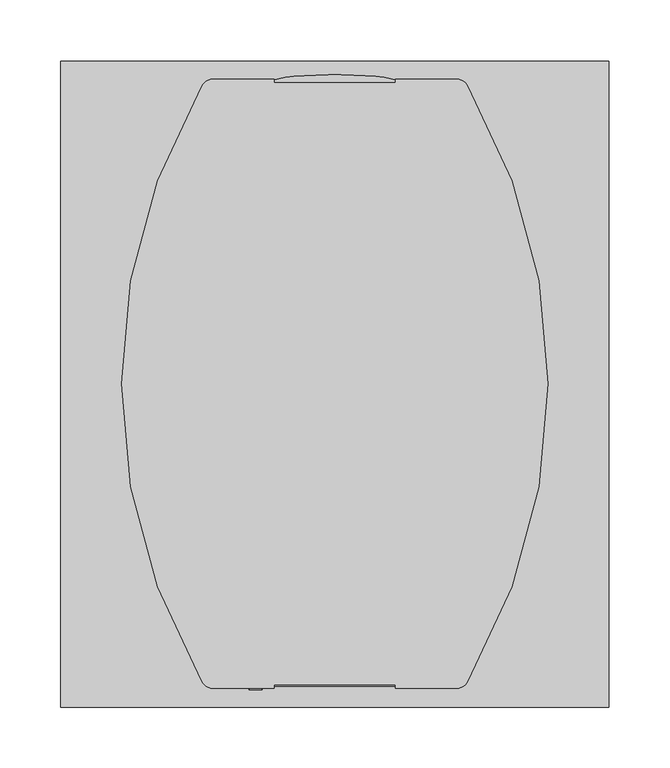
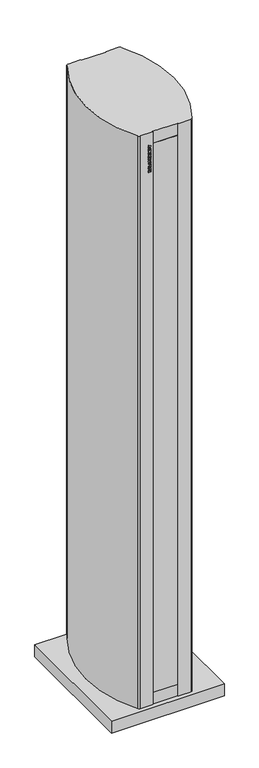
"""IFC4 building model written with IfcOpenShell, lengths in millimetres: proxy geometry, ИЗТТ_Завеса дизайнерская_Электрическая : KVC-S25E24-31."""

from ifc_helpers import new_model, si_unit, point, frame, frame_2d, origin, origin_with_axes, place, context, project, spatial, polyline, circle_curve, ellipse_curve, trimmed, segment, composite_curve, outline, extrude, faceted_brep, source, transform, mapped, element, save
from ifc_brep_helpers import plane_surface, extruded_surface, advanced_brep


def mechanical_equipment_74a944ee(model_context):
    return source(origin(), model_context, "Body", "SolidModel", [
        extrude(outline(polyline([(2300.0784314, -70.0), (2300.0784314, -60.0), (2303.2156863, -60.0), (2303.2156863, -61.7647059), (2304.9865196, -63.7745098), (2306.8186275, -60.0), (2310.6666667, -60.0), (2307.192402, -66.2775735), (2310.4705882, -70.0), (2306.1997549, -70.0), (2303.2156863, -66.2224265), (2303.2156863, -70.0), (2300.0784314, -70.0)])), frame((0.0, -251.0, 0.0), z_axis=(0.0, 1.0, 0.0), x_axis=(0.0, 0.0, 1.0)), (0.0, 0.0, 1.0), 1.0),
        extrude(outline(polyline([(2317.6642157, -61.5686275), (2318.1176471, -60.0), (2321.4509804, -60.0), (2318.0778186, -70.0), (2314.0398284, -70.0), (2310.6666667, -60.0), (2314.0, -60.0), (2314.4319853, -61.5686275), (2317.6642157, -61.5686275)]), holes=[polyline([(2317.0698529, -63.9215686), (2315.0814951, -63.9215686), (2316.0588235, -67.4540441), (2317.0698529, -63.9215686)])]), frame((0.0, -251.0, 0.0), z_axis=(0.0, 1.0, 0.0), x_axis=(0.0, 0.0, 1.0)), (0.0, 0.0, 1.0), 1.0),
        extrude(outline(polyline([(2322.4313725, -70.0), (2322.4313725, -60.0), (2330.2745098, -60.0), (2330.2745098, -62.3529412), (2325.5686275, -62.3529412), (2325.5686275, -70.0), (2322.4313725, -70.0)])), frame((0.0, -251.0, 0.0), z_axis=(0.0, 1.0, 0.0), x_axis=(0.0, 0.0, 1.0)), (0.0, 0.0, 1.0), 1.0),
        extrude(outline(polyline([(2337.6642157, -61.5686275), (2338.1176471, -60.0), (2341.4509804, -60.0), (2338.0778186, -70.0), (2334.0398284, -70.0), (2330.6666667, -60.0), (2334.0, -60.0), (2334.4319853, -61.5686275), (2337.6642157, -61.5686275)]), holes=[polyline([(2337.0698529, -63.9215686), (2335.0814951, -63.9215686), (2336.0588235, -67.4540441), (2337.0698529, -63.9215686)])]), frame((0.0, -251.0, 0.0), z_axis=(0.0, 1.0, 0.0), x_axis=(0.0, 0.0, 1.0)), (0.0, 0.0, 1.0), 1.0),
        extrude(outline(polyline([(2341.8431373, -63.3394608), (2342.9491422, -60.8026961), (2346.4601716, -59.8039216), (2348.8560049, -60.2297794), (2350.3342525, -61.4813113), (2350.8627451, -63.28125), (2350.4675245, -64.7870711), (2349.2022059, -65.9129902), (2346.3223039, -66.8106618), (2346.1905637, -68.4313725), (2346.9641544, -68.1050858), (2347.3333333, -67.0588235), (2350.4705882, -67.2395833), (2349.2925858, -69.4883578), (2346.4172794, -70.1960784), (2343.9969363, -69.8039216), (2342.6749387, -68.7285539), (2342.2352941, -67.276348), (2343.1023284, -65.3492647), (2345.9761029, -64.1237745), (2347.7254902, -62.8186275), (2347.4114583, -62.0818015), (2346.5183824, -61.7647059), (2345.3204657, -62.3958333), (2344.9803922, -63.5294118), (2341.8431373, -63.3394608)])), frame((0.0, -251.0, 0.0), z_axis=(0.0, 1.0, 0.0), x_axis=(0.0, 0.0, 1.0)), (0.0, 0.0, 1.0), 1.0),
        extrude(outline(polyline([(2352.4313725, -70.0), (2352.4313725, -60.0), (2355.5686275, -60.0), (2355.5686275, -64.1176471), (2358.9019608, -64.1176471), (2358.9019608, -60.0), (2362.0392157, -60.0), (2362.0392157, -70.0), (2358.9019608, -70.0), (2358.9019608, -66.4705882), (2355.5686275, -66.4705882), (2355.5686275, -70.0), (2352.4313725, -70.0)])), frame((0.0, -251.0, 0.0), z_axis=(0.0, 1.0, 0.0), x_axis=(0.0, 0.0, 1.0)), (0.0, 0.0, 1.0), 1.0),
        extrude(outline(polyline([(2364.0, -70.0), (2364.0, -60.0), (2366.9411765, -60.0), (2366.9411765, -65.4901961), (2370.6666667, -60.0), (2373.6078431, -60.0), (2373.6078431, -70.0), (2370.6666667, -70.0), (2370.6666667, -64.4730392), (2366.9197304, -70.0), (2364.0, -70.0)])), frame((0.0, -251.0, 0.0), z_axis=(0.0, 1.0, 0.0), x_axis=(0.0, 0.0, 1.0)), (0.0, 0.0, 1.0), 1.0),
        extrude(outline(polyline([(-60.0, -251.0), (-70.0, -251.0), (-70.0, -250.0), (-60.0, -250.0), (-60.0, -251.0)])), frame((0.0, 0.0, 2375.7647059), z_axis=(0.0, 0.0, 1.0), x_axis=(1.0, 0.0, 0.0)), (0.0, 0.0, 1.0), 3.1372549),
        extrude(outline(polyline([(2381.0588235, -70.0), (2381.0588235, -60.0), (2384.1960784, -60.0), (2384.1960784, -61.7647059), (2385.9669118, -63.7745098), (2387.7990196, -60.0), (2391.6470588, -60.0), (2388.1727941, -66.2775735), (2391.4509804, -70.0), (2387.1801471, -70.0), (2384.1960784, -66.2224265), (2384.1960784, -70.0), (2381.0588235, -70.0)])), frame((0.0, -251.0, 0.0), z_axis=(0.0, 1.0, 0.0), x_axis=(0.0, 0.0, 1.0)), (0.0, 0.0, 1.0), 1.0),
        extrude(outline(polyline([(2392.2352941, -64.9938725), (2392.9261642, -62.0603554), (2394.7291667, -60.346201), (2397.5386029, -59.8039216), (2400.3250613, -60.4304534), (2402.036152, -62.1859681), (2402.627451, -65.0765931), (2401.2732843, -68.8495711), (2397.4129902, -70.1960784), (2393.6032475, -68.8250613), (2392.2352941, -64.9938725)]), holes=[polyline([(2395.372549, -64.9938725), (2395.9301471, -67.1813725), (2397.4068627, -67.8431373), (2398.9295343, -67.1920956), (2399.4901961, -65.1286765), (2398.9525123, -62.8048407), (2397.4344363, -62.1568627), (2395.9270833, -62.8186275), (2395.372549, -64.9938725)])]), frame((0.0, -251.0, 0.0), z_axis=(0.0, 1.0, 0.0), x_axis=(0.0, 0.0, 1.0)), (0.0, 0.0, 1.0), 1.0),
        extrude(outline(polyline([(2403.4117647, -70.0), (2407.1280637, -60.0), (2410.4583333, -60.0), (2414.1960784, -70.0), (2410.8627451, -70.0), (2408.8039216, -62.8033088), (2406.7420343, -70.0), (2403.4117647, -70.0)])), frame((0.0, -251.0, 0.0), z_axis=(0.0, 1.0, 0.0), x_axis=(0.0, 0.0, 1.0)), (0.0, 0.0, 1.0), 1.0),
        extrude(outline(polyline([(225.0, 265.0), (225.0, -265.0), (-225.0, -265.0), (-225.0, 265.0), (225.0, 265.0)])), origin_with_axes(), (0.0, 0.0, 1.0), 50.0),
        faceted_brep([(50.0, -247.0, 2414.0), (-50.0, -247.0, 2414.0), (-50.0, -248.5, 2414.0), (50.0, -248.5, 2414.0), (50.0, -247.0, 100.0), (50.0, -248.5, 100.0), (-50.0, -248.5, 100.0), (-50.0, -247.0, 100.0)], [[[0, 1, 2, 3]], [[4, 5, 6, 7]], [[1, 0, 4, 7]], [[2, 1, 7, 6]], [[3, 2, 6, 5]], [[0, 3, 5, 4]]]),
        advanced_brep(
        [(-50.0, 248.5, 2414.0), (-50.0, 247.0, 2414.0), (50.0, 247.0, 2414.0), (50.0, 248.5, 2414.0), (-50.0, 248.5, 100.0), (50.0, 248.5, 100.0), (50.0, 247.0, 100.0), (-50.0, 247.0, 100.0)],
        [
            (0, 1),
            (1, 2),
            (2, 3),
            (3, 0, ellipse_curve(frame((0.0, 248.5, 2414.0), z_axis=(0.0, 0.0, 1.0), x_axis=(-1.0, 0.0, 0.0)), 50.0, 5.0)),
            (4, 5, ellipse_curve(frame((0.0, 248.5, 100.0), z_axis=(0.0, 0.0, -1.0), x_axis=(-1.0, 0.0, 0.0)), 50.0, 5.0)),
            (5, 6),
            (6, 7),
            (7, 4),
            (0, 4),
            (7, 1),
            (6, 2),
            (5, 3),
        ],
        [
            plane_surface(frame((-50.0, -247.0, 2414.0), z_axis=(0.0, 0.0, 1.0), x_axis=(-1.0, 0.0, 0.0))),
            plane_surface(frame((-50.0, -247.0, 100.0), z_axis=(0.0, 0.0, -1.0), x_axis=(1.0, 0.0, 0.0))),
            plane_surface(frame((-50.0, 248.5, 2414.0), z_axis=(-1.0, 0.0, 0.0), x_axis=(0.0, 0.0, -1.0))),
            plane_surface(frame((-50.0, 247.0, 2414.0), z_axis=(0.0, -1.0, 0.0), x_axis=(0.0, 0.0, -1.0))),
            plane_surface(frame((50.0, 247.0, 2414.0), z_axis=(1.0, 0.0, 0.0), x_axis=(0.0, 0.0, -1.0))),
            extruded_surface(trimmed(ellipse_curve(frame((0.0, 248.5, -2314.0), z_axis=(0.0, 0.0, 1.0), x_axis=(-1.0, 0.0, 0.0)), 50.0, 5.0), [point((50.0, 248.5, -2314.0))], [point((-50.0, 248.5, -2314.0))], True, "CARTESIAN"), (0.0, 0.0, 2314.0), 2314.0),
        ],
        [
            (0, [[1, 2, 3, 4]]),
            (1, [[5, 6, 7, 8]]),
            (2, [[-1, 9, -8, 10]]),
            (3, [[-2, -10, -7, 11]]),
            (4, [[-3, -11, -6, 12]]),
            (5, [[-4, -12, -5, -9]]),
        ],
    ),
        extrude(outline(composite_curve([segment(polyline([(-50.0, 250.0), (-50.0, 247.0), (50.0, 247.0), (50.0, 250.0), (100.0, 250.0)]), True, "CONTINUOUS"), segment(trimmed(circle_curve(frame_2d((100.0, 240.0)), 10.0), [point((100.0, 250.0))], [point((109.287324, 243.7075077))], False, "CARTESIAN"), True, "CONTINUOUS"), segment(trimmed(circle_curve(frame_2d((-309.7733265, 0.0)), 484.7733265), [point((109.287324, 243.7075077))], [point((109.287324, -243.7075077))], False, "CARTESIAN"), True, "CONTINUOUS"), segment(trimmed(circle_curve(frame_2d((100.0, -240.0)), 10.0), [point((109.287324, -243.7075077))], [point((100.0, -250.0))], False, "CARTESIAN"), True, "CONTINUOUS"), segment(polyline([(100.0, -250.0), (50.0, -250.0), (50.0, -247.0), (-50.0, -247.0), (-50.0, -250.0), (-100.0, -250.0)]), True, "CONTINUOUS"), segment(trimmed(circle_curve(frame_2d((-100.0, -240.0)), 10.0), [point((-100.0, -250.0))], [point((-109.287324, -243.7075077))], False, "CARTESIAN"), True, "CONTINUOUS"), segment(trimmed(circle_curve(frame_2d((309.7733265, 0.0)), 484.7733265), [point((-109.287324, -243.7075077))], [point((-109.287324, 243.7075077))], False, "CARTESIAN"), True, "CONTINUOUS"), segment(trimmed(circle_curve(frame_2d((-100.0, 240.0)), 10.0), [point((-109.287324, 243.7075077))], [point((-100.0, 250.0))], False, "CARTESIAN"), True, "CONTINUOUS"), segment(polyline([(-100.0, 250.0), (-50.0, 250.0)]), True, "CONTINUOUS")], self_intersect=False)), frame((0.0, 0.0, 50.0), z_axis=(0.0, 0.0, 1.0), x_axis=(1.0, 0.0, 0.0)), (0.0, 0.0, 1.0), 2414.0),
    ])


if __name__ == "__main__":
    model = new_model("IFC4")
    model_context = context("Model", 3, world=origin())
    ifc_project = project(units=[si_unit("LENGTHUNIT", "METRE", prefix="MILLI")], contexts=[model_context])
    site = spatial("IfcSite", under=ifc_project)
    building = spatial("IfcBuilding", under=site)
    placement = place(None, origin())
    mechanical_equipment_shape = mechanical_equipment_74a944ee(model_context)
    element("IfcBuildingElementProxy", 1, Name="ИЗТТ_Завеса дизайнерская_Электрическая : KVC-S25E24-31", ObjectType="ИЗТТ_Завеса дизайнерская_Электрическая : KVC-S25E24-31", at=placement, inside=building, context=model_context, shape_type="MappedRepresentation", body=[
        mapped(mechanical_equipment_shape, transform((0.0, 0.0, 0.0), x_axis=(1.0, 0.0, 0.0), y_axis=(0.0, 1.0, 0.0), z_axis=(0.0, 0.0, 1.0))),
    ])
    save(model, "model.ifc")
